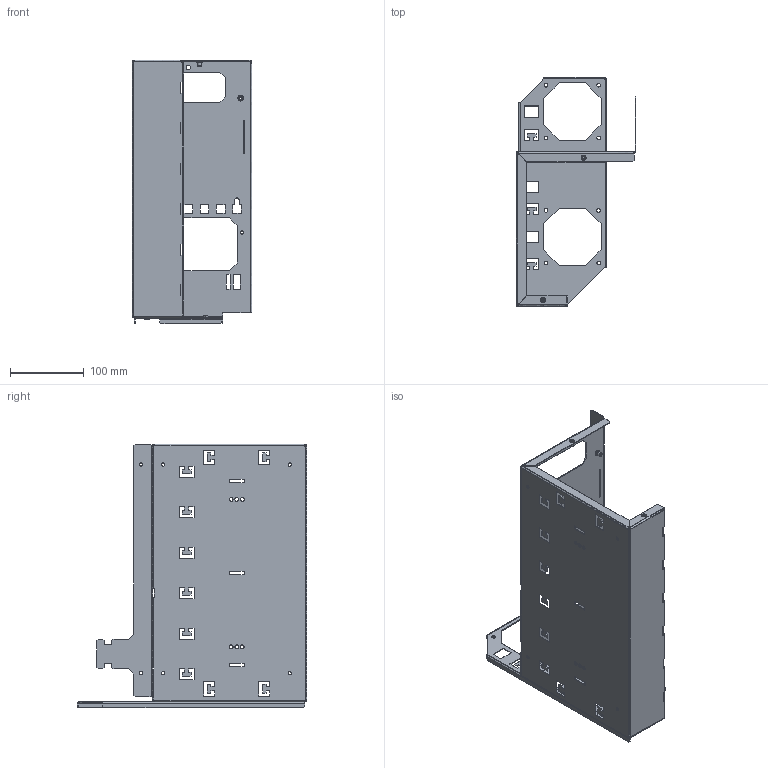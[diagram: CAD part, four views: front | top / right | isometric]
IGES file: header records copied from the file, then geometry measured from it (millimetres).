
Start section: SolidWorks IGES file using analytic representation for surfaces
Global section: file name: C:\PDF\庋.803-5-27.0.0.0.IGS,; native system: SolidWorks 2016; preprocessor: SolidWorks 2016; author: Diman; date: 210306.212430; units: millimetre
Bounding box: 162.5 x 311.5 x 358 mm (x, y, z)
Surface area: 380144.2 mm2 (no closed solid volume)
Topology: 0 solids, 0 shells, 1007 faces, 10678 edges, 10678 vertices
Faces by surface type: bspline 807, revolution 200
